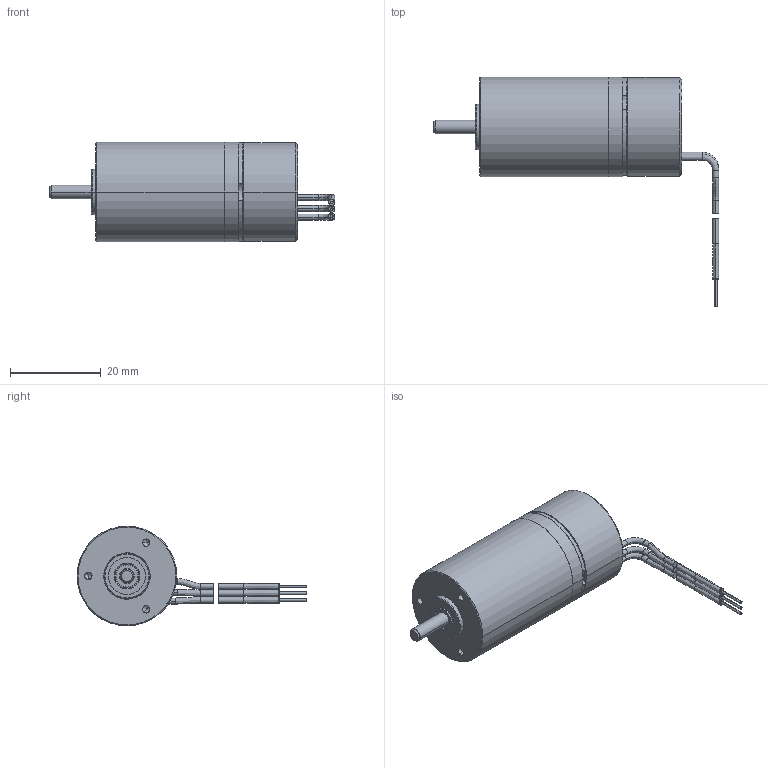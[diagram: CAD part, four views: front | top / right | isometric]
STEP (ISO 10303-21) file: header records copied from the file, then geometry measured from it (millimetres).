
FILE_DESCRIPTION((''),'2;1');
FILE_NAME('386661_EC22_40W_B','2016-10-17T',('mmagpetk'),(''),'CREO PARAMETRIC BY PTC INC, 2016050','CREO PARAMETRIC BY PTC INC, 2016050','');
FILE_SCHEMA(('CONFIG_CONTROL_DESIGN'));
Length unit declared in the file: millimetre
Products named in the file (1): 386661_EC22_40W_B
Bounding box: 62.97 x 50.7 x 22 mm (x, y, z)
Volume: 16921.4 mm3; surface area: 4955 mm2
Topology: 5 solids, 8 shells, 179 faces, 375 edges, 223 vertices
Faces by surface type: cylinder 90, plane 39, bspline 18, torus 18, cone 14
Entity records: 6897 total; most frequent: CARTESIAN_POINT 1270, DIRECTION 907, ORIENTED_EDGE 738, PRESENTATION_STYLE_ASSIGNMENT 438, AXIS2_PLACEMENT_3D 398, STYLED_ITEM 374, CURVE_STYLE 369, EDGE_CURVE 369
